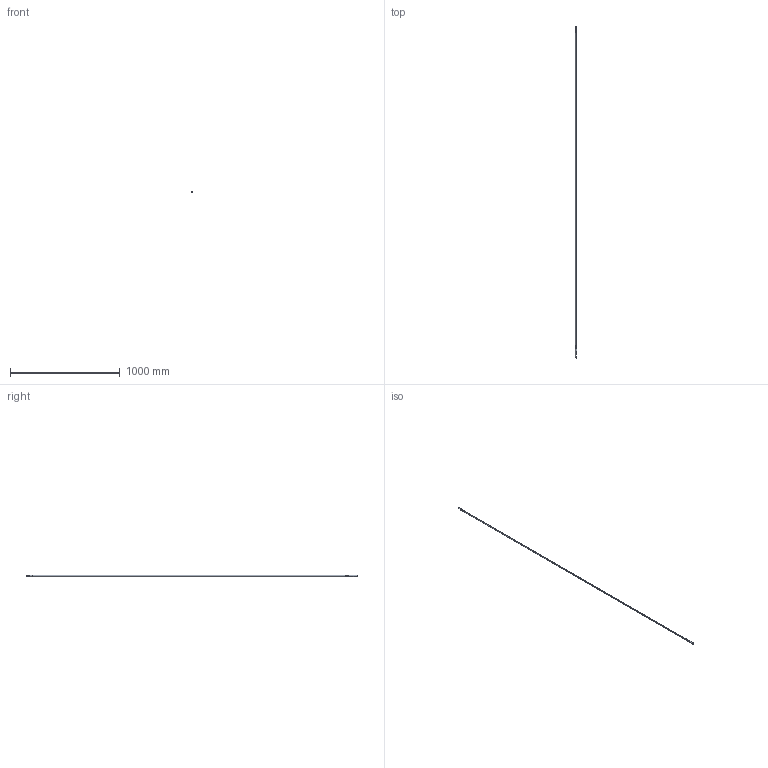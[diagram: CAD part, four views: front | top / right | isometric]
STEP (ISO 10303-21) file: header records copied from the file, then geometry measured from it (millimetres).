
FILE_DESCRIPTION (( 'STEP AP214' ), '1' );
FILE_NAME ('TPL-H-011.STEP', '2024-07-11T04:22:58', ( '' ), ( '' ), 'SwSTEP 2.0', 'SolidWorks 2023', '' );
FILE_SCHEMA (( 'AUTOMOTIVE_DESIGN' ));
Length unit declared in the file: millimetre
Products named in the file (5): Copy of LKC-540 Transmission rod aluminium system TPLGen2^Hollow rod with bolt and adaptor_2885mm; Copy of LKC-532 Rod connector - simplified^Hollow rod with bolt and adaptor; Copy of LKC-576 Bolt adaptor - simplified^Hollow rod with bolt and adaptor; TPL-H-011; Copy of LKC-574 Bolt single flat 12.7mm dia 10.5mm AF - simplified^Hollow rod with bolt and adaptor
Assembly tree (4 placements, depth 2):
  TPL-H-011
    Copy of LKC-532 Rod connector - simplified^Hollow rod with bolt and adaptor
    Copy of LKC-540 Transmission rod aluminium system TPLGen2^Hollow rod with bolt and adaptor_2885mm
    Copy of LKC-576 Bolt adaptor - simplified^Hollow rod with bolt and adaptor
    Copy of LKC-574 Bolt single flat 12.7mm dia 10.5mm AF - simplified^Hollow rod with bolt and adaptor
Bounding box: 12.7 x 3021 x 12.7 mm (x, y, z)
Volume: 155109.3 mm3; surface area: 194020.9 mm2
Topology: 4 solids, 4 shells, 98 faces, 237 edges, 141 vertices
Faces by surface type: cylinder 40, cone 30, plane 24, torus 2, sphere 2
Entity records: 3095 total; most frequent: CARTESIAN_POINT 695, DIRECTION 515, ORIENTED_EDGE 438, EDGE_CURVE 219, AXIS2_PLACEMENT_3D 207, VERTEX_POINT 139, EDGE_LOOP 110, CIRCLE 102
